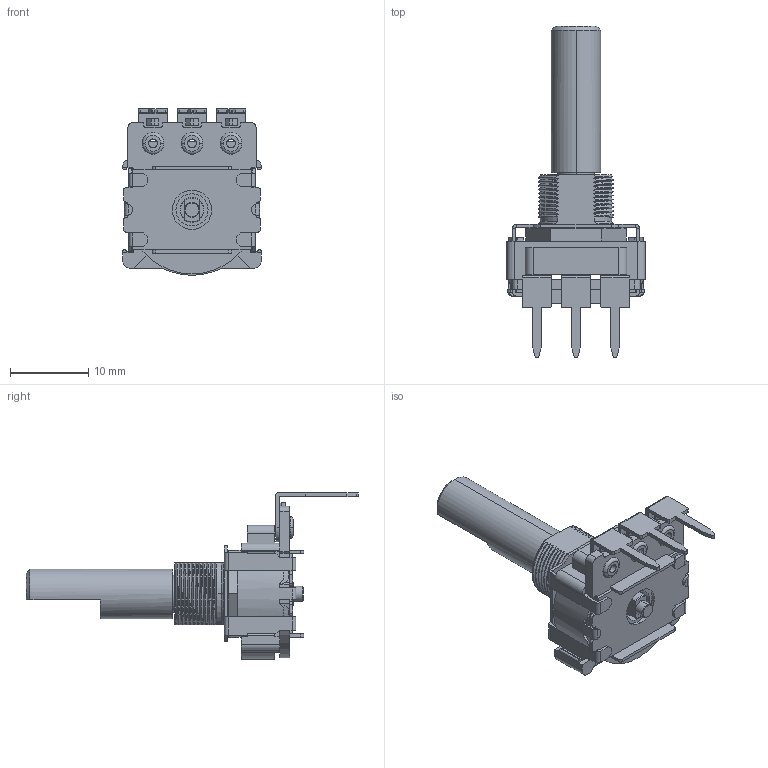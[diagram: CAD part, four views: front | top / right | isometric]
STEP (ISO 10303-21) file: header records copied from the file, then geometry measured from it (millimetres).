
FILE_DESCRIPTION (( 'STEP AP214' ), '1' );
FILE_NAME ('280V232F104A121.STEP', '2019-05-24T08:22:07', ( '' ), ( '' ), 'SwSTEP 2.0', 'SolidWorks 2019', '' );
FILE_SCHEMA (( 'AUTOMOTIVE_DESIGN' ));
Length unit declared in the file: millimetre
Products named in the file (8): 280-07-001-01-53; 280-08-T01; 280-02-010-40-01B; 280V232F104A121; 280-01-011-30-01; 280E-C-2301; 280-18-T02-01-37(for 280-95-024); 13M280S5783T(from 280S-ER-11818-GJ)
Assembly tree (9 placements, depth 2):
  280V232F104A121
    280-02-010-40-01B
    280E-C-2301
    280-01-011-30-01
    280-07-001-01-53
    280-08-T01
    13M280S5783T(from 280S-ER-11818-GJ)
    280-18-T02-01-37(for 280-95-024)  x3
Bounding box: 17.78 x 42.52 x 21.33 mm (x, y, z)
Volume: 2116.4 mm3; surface area: 4374.6 mm2
Topology: 9 solids, 9 shells, 651 faces, 1797 edges, 1178 vertices
Faces by surface type: plane 367, cylinder 191, bspline 62, cone 17, torus 14
Entity records: 32469 total; most frequent: CARTESIAN_POINT 18052, ORIENTED_EDGE 3166, DIRECTION 2707, EDGE_CURVE 1583, VERTEX_POINT 1038, LINE 973, VECTOR 973, AXIS2_PLACEMENT_3D 867
